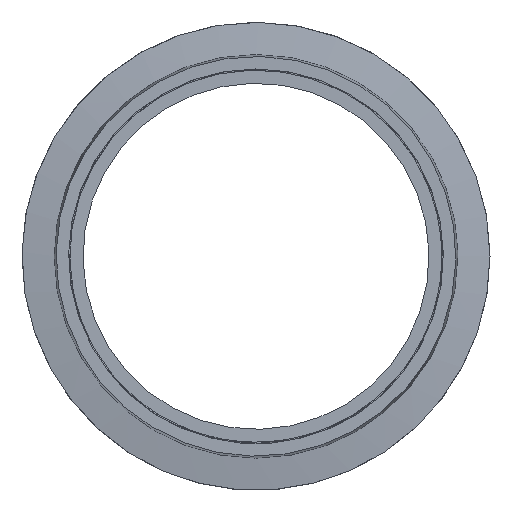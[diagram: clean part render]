
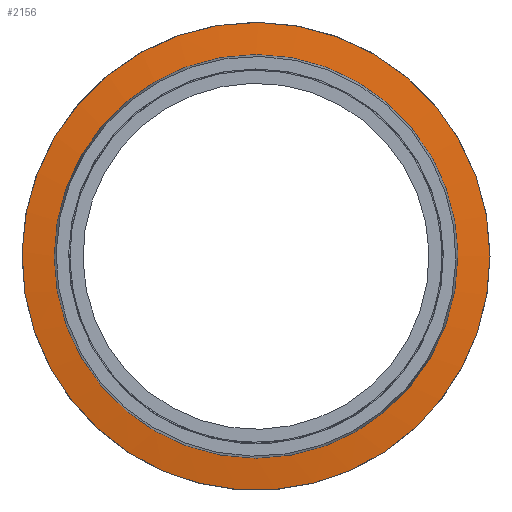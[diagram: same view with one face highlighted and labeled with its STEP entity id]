
A CAD part, left-side view. The second image highlights one B-rep face of the part: STEP entity #2156.
In plain terms, the highlighted conical face has half-angle 83 degrees and reference radius 27.466 mm.
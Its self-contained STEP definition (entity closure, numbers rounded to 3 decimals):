
#28=CONICAL_SURFACE('',#2370,27.466,1.449);
#118=FACE_BOUND('',#424,.T.);
#251=FACE_OUTER_BOUND('',#423,.T.);
#423=EDGE_LOOP('',(#1620));
#424=EDGE_LOOP('',(#1621));
#539=CIRCLE('',#2315,27.469);
#541=CIRCLE('',#2318,31.85);
#892=VERTEX_POINT('',#8959);
#895=VERTEX_POINT('',#8972);
#1115=EDGE_CURVE('',#892,#892,#539,.T.);
#1117=EDGE_CURVE('',#895,#895,#541,.T.);
#1620=ORIENTED_EDGE('',*,*,#1117,.T.);
#1621=ORIENTED_EDGE('',*,*,#1115,.T.);
#2156=ADVANCED_FACE('',(#251,#118),#28,.T.);
#2315=AXIS2_PLACEMENT_3D('',#8967,#2611,#2612);
#2318=AXIS2_PLACEMENT_3D('',#8973,#2617,#2618);
#2370=AXIS2_PLACEMENT_3D('',#13607,#2723,#2724);
#2611=DIRECTION('center_axis',(1.,0.,0.));
#2612=DIRECTION('ref_axis',(0.,-0.809,0.588));
#2617=DIRECTION('center_axis',(-1.,0.,0.));
#2618=DIRECTION('ref_axis',(0.,-0.878,0.479));
#2723=DIRECTION('center_axis',(1.,0.,0.));
#2724=DIRECTION('ref_axis',(0.,-0.878,0.479));
#8959=CARTESIAN_POINT('',(-47.851,-27.469,0.));
#8967=CARTESIAN_POINT('Origin',(-47.851,0.,
0.));
#8972=CARTESIAN_POINT('',(-47.313,27.951,-15.27));
#8973=CARTESIAN_POINT('Origin',(-47.313,0.,0.));
#13607=CARTESIAN_POINT('Origin',(-47.851,0.,0.));
